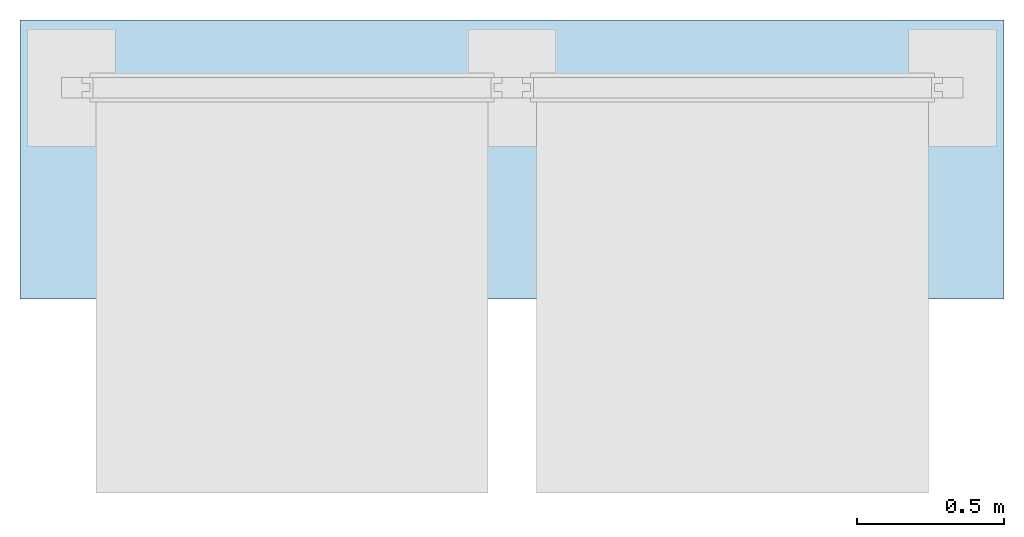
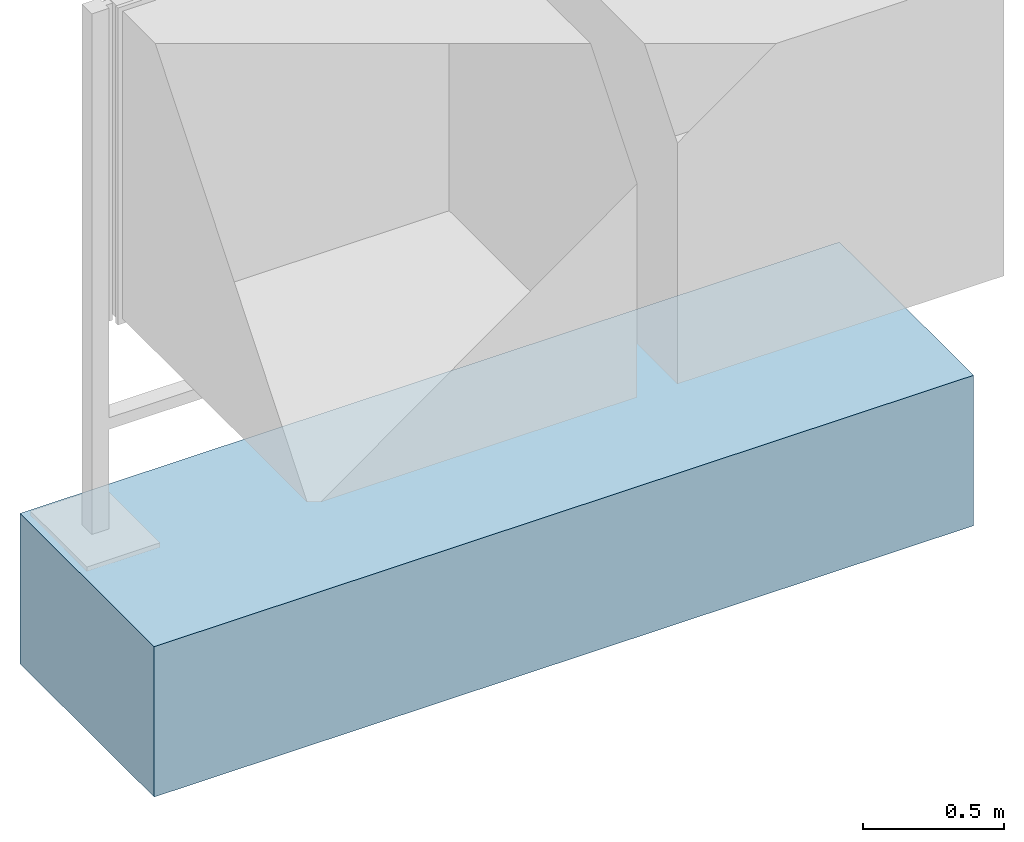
# One storey, incomplete: 1 slab.
"""IFC4 building model written with IfcOpenShell, lengths in metres."""

from ifc_helpers import new_model, entity, si_unit, converted_unit, direction, frame, frame_2d, origin, origin_2d_with_axis, place, context, subcontext, project, spatial, rectangle, extrude, material, type_object, element, save


model = new_model("IFC4")

# Units and contexts
model_context = context("Model", 3, precision=1e-05, world=origin(), true_north=direction((6.123031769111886e-17, 1.0)))
body_context = subcontext(model_context, "Body", "Model", "MODEL_VIEW")
ifc_project = project(units=[si_unit("LENGTHUNIT", "METRE"), converted_unit("PLANEANGLEUNIT", "DEGREE", entity("IfcPlaneAngleMeasure", 0.017453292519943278), si_unit("PLANEANGLEUNIT", "RADIAN"), dimensions=[0, 0, 0, 0, 0, 0, 0]), si_unit("AREAUNIT", "SQUARE_METRE")], contexts=[model_context])

# Site, building, storey
site_placement = place(None, origin())
site = spatial("IfcSite", under=ifc_project, at=site_placement, Name="Default", CompositionType="ELEMENT")
building_placement = place(site_placement, origin())
building = spatial("IfcBuilding", under=site, at=building_placement, CompositionType="ELEMENT")
storey_placement = place(building_placement, origin())
storey = spatial("IfcBuildingStorey", under=building, at=storey_placement, Name="Ebene 0", CompositionType="ELEMENT", Elevation=0.0)

# Slab
ifc_material = material(Name="DB_Magerbeton", Category="DB_Beton")
slab_type = type_object("IfcSlabType", Name="DB_Vitrine_Fundament_zweifeldrig_Windlastzone_1_2:DB_Vitrine_Fundament_zweifeldrig_Windlastzone_1_2", PredefinedType="BASESLAB", material=ifc_material)
slab_placement = place(storey_placement, origin())
element("IfcSlab", 1, at=slab_placement, inside=storey, type_object=slab_type, Name="DB_Vitrine_Fundament_zweifeldrig_Windlastzone_1_2:DB_Vitrine_Fundament_zweifeldrig_Windlastzone_1_2", ObjectType="DB_Vitrine_Fundament_zweifeldrig_Windlastzone_1_2:DB_Vitrine_Fundament_zweifeldrig_Windlastzone_1_2", PredefinedType="BASESLAB", context=body_context, shape_type="SweptSolid", body=[
    extrude(rectangle(XDim=0.9500000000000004, YDim=3.3499999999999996, at=origin_2d_with_axis()), frame((1.4993742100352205, -0.24499999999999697, 0.0), z_axis=(0.0, 0.0, 1.0), x_axis=(0.0, -1.0, 0.0)), (0.0, 0.0, 1.0), 0.04999999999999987),
    extrude(rectangle(XDim=3.3499999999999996, YDim=0.95, at=frame_2d((0.0, 2.7755575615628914e-17), x_axis=(1.0, 0.0))), frame((1.4993742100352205, -0.24499999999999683, 0.04999999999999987), z_axis=(0.0, 0.0, 1.0), x_axis=(-1.0, 0.0, 0.0)), (0.0, 0.0, 1.0), 0.5999999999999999),
])

save(model, "model.ifc")
